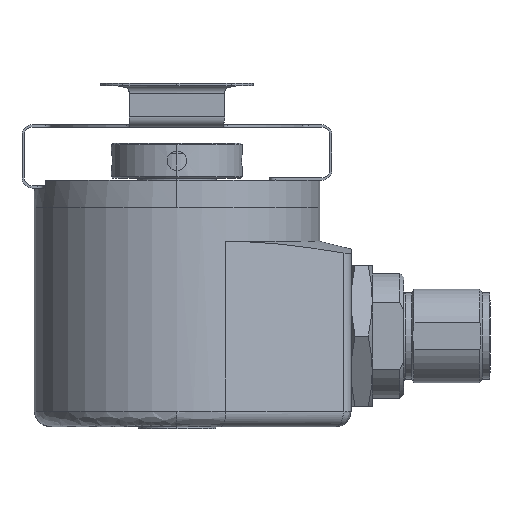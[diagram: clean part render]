
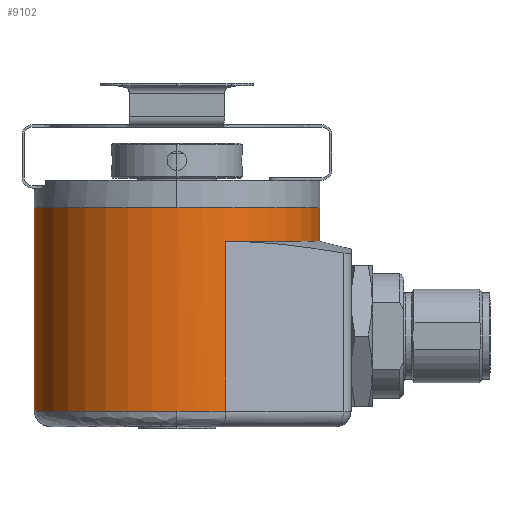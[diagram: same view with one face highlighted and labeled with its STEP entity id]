
A CAD part, left-side view. The second image highlights one B-rep face of the part: STEP entity #9102.
In plain terms, the highlighted cylindrical face has radius 18.25 mm (diameter 36.5 mm), a partial arc.
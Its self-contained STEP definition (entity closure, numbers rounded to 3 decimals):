
#39 = VERTEX_POINT ( 'NONE', #5341 ) ;
#48 = CARTESIAN_POINT ( 'NONE',  ( 2.186, 0., -29.5 ) ) ;
#185 = VECTOR ( 'NONE', #8853, 1000. ) ;
#1046 = EDGE_CURVE ( 'NONE', #2100, #13552, #5598, .T. ) ;
#1197 = DIRECTION ( 'NONE',  ( 0., 0., -1. ) ) ;
#1580 = ORIENTED_EDGE ( 'NONE', *, *, #20656, .T. ) ;
#1676 = CARTESIAN_POINT ( 'NONE',  ( 2.186, 18.25, -29.5 ) ) ;
#2084 = DIRECTION ( 'NONE',  ( 0., 1., 0. ) ) ;
#2100 = VERTEX_POINT ( 'NONE', #3235 ) ;
#3235 = CARTESIAN_POINT ( 'NONE',  ( 2.186, -18.25, -3.5 ) ) ;
#3948 = VERTEX_POINT ( 'NONE', #25360 ) ;
#4470 = EDGE_CURVE ( 'NONE', #10984, #13552, #14691, .T. ) ;
#5341 = CARTESIAN_POINT ( 'NONE',  ( 2.186, 18.25, -3.5 ) ) ;
#5460 = CARTESIAN_POINT ( 'NONE',  ( 2.186, -18.25, -7.806 ) ) ;
#5598 = LINE ( 'NONE', #8821, #185 ) ;
#5801 = DIRECTION ( 'NONE',  ( 0., 1., 0. ) ) ;
#5805 = DIRECTION ( 'NONE',  ( 0., 0., 1. ) ) ;
#5855 = ORIENTED_EDGE ( 'NONE', *, *, #1046, .F. ) ;
#6793 = CARTESIAN_POINT ( 'NONE',  ( 2.186, 0., -3.5 ) ) ;
#7519 = EDGE_CURVE ( 'NONE', #14038, #3948, #15639, .T. ) ;
#7520 = AXIS2_PLACEMENT_3D ( 'NONE', #48, #14270, #2084 ) ;
#7545 = DIRECTION ( 'NONE',  ( 0., 0., -1. ) ) ;
#7768 = EDGE_LOOP ( 'NONE', ( #5855, #18142, #10725, #19229, #20477, #1580, #21182 ) ) ;
#8821 = CARTESIAN_POINT ( 'NONE',  ( 2.186, -18.25, -3.5 ) ) ;
#8853 = DIRECTION ( 'NONE',  ( 0., 0., -1. ) ) ;
#9102 = ADVANCED_FACE ( 'NONE', ( #10079 ), #23724, .T. ) ;
#9656 = VECTOR ( 'NONE', #7545, 1000. ) ;
#10079 = FACE_OUTER_BOUND ( 'NONE', #7768, .T. ) ;
#10214 = AXIS2_PLACEMENT_3D ( 'NONE', #13394, #1197, #15396 ) ;
#10691 = EDGE_CURVE ( 'NONE', #2100, #39, #24677, .T. ) ;
#10725 = ORIENTED_EDGE ( 'NONE', *, *, #25729, .T. ) ;
#10984 = VERTEX_POINT ( 'NONE', #14161 ) ;
#12448 = DIRECTION ( 'NONE',  ( 0., 1., 0. ) ) ;
#12480 = DIRECTION ( 'NONE',  ( 0., 0., 1. ) ) ;
#12495 = CARTESIAN_POINT ( 'NONE',  ( 2.186, 0., -7.806 ) ) ;
#13394 = CARTESIAN_POINT ( 'NONE',  ( 2.186, 0., -3.5 ) ) ;
#13552 = VERTEX_POINT ( 'NONE', #5460 ) ;
#13900 = VECTOR ( 'NONE', #20073, 1000. ) ;
#14038 = VERTEX_POINT ( 'NONE', #22064 ) ;
#14161 = CARTESIAN_POINT ( 'NONE',  ( -14.963, -6.242, -7.806 ) ) ;
#14270 = DIRECTION ( 'NONE',  ( 0., 0., 1. ) ) ;
#14551 = LINE ( 'NONE', #18029, #13900 ) ;
#14691 = CIRCLE ( 'NONE', #21820, 18.25 ) ;
#15394 = CIRCLE ( 'NONE', #7520, 18.25 ) ;
#15396 = DIRECTION ( 'NONE',  ( 0., 1., 0. ) ) ;
#15639 = CIRCLE ( 'NONE', #25281, 18.25 ) ;
#15961 = LINE ( 'NONE', #21818, #9656 ) ;
#17007 = EDGE_CURVE ( 'NONE', #17319, #14038, #15394, .T. ) ;
#17319 = VERTEX_POINT ( 'NONE', #1676 ) ;
#17328 = AXIS2_PLACEMENT_3D ( 'NONE', #6793, #26009, #25230 ) ;
#18029 = CARTESIAN_POINT ( 'NONE',  ( -14.963, -6.242, -3.5 ) ) ;
#18142 = ORIENTED_EDGE ( 'NONE', *, *, #10691, .T. ) ;
#19229 = ORIENTED_EDGE ( 'NONE', *, *, #17007, .T. ) ;
#20073 = DIRECTION ( 'NONE',  ( 0., 0., 1. ) ) ;
#20477 = ORIENTED_EDGE ( 'NONE', *, *, #7519, .T. ) ;
#20656 = EDGE_CURVE ( 'NONE', #3948, #10984, #14551, .T. ) ;
#21182 = ORIENTED_EDGE ( 'NONE', *, *, #4470, .T. ) ;
#21818 = CARTESIAN_POINT ( 'NONE',  ( 2.186, 18.25, -3.5 ) ) ;
#21820 = AXIS2_PLACEMENT_3D ( 'NONE', #12495, #12480, #12448 ) ;
#22064 = CARTESIAN_POINT ( 'NONE',  ( -16.064, 0., -29.5 ) ) ;
#23724 = CYLINDRICAL_SURFACE ( 'NONE', #17328, 18.25 ) ;
#24299 = CARTESIAN_POINT ( 'NONE',  ( 2.186, 0., -29.5 ) ) ;
#24677 = CIRCLE ( 'NONE', #10214, 18.25 ) ;
#25230 = DIRECTION ( 'NONE',  ( 0., 1., 0. ) ) ;
#25281 = AXIS2_PLACEMENT_3D ( 'NONE', #24299, #5805, #5801 ) ;
#25360 = CARTESIAN_POINT ( 'NONE',  ( -14.963, -6.242, -29.5 ) ) ;
#25729 = EDGE_CURVE ( 'NONE', #39, #17319, #15961, .T. ) ;
#26009 = DIRECTION ( 'NONE',  ( 0., 0., -1. ) ) ;
